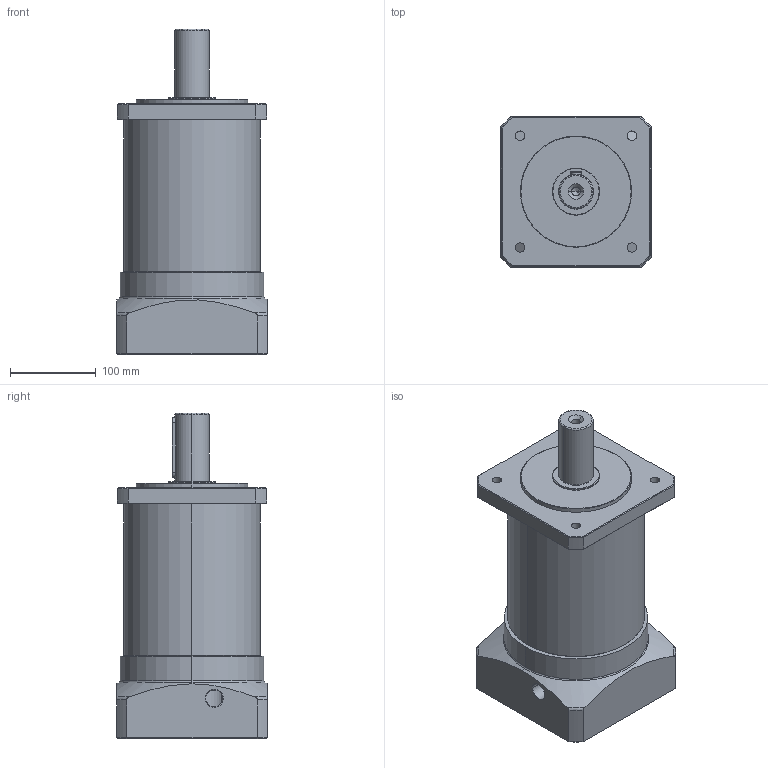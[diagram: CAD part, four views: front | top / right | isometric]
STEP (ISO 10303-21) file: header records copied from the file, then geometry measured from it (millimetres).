
FILE_DESCRIPTION (( 'STEP AP214' ), '1' );
FILE_NAME ('PF160-L3-35×80-114.3-200M12 三维零件图.STEP', '2021-08-06T06:17:05', ( 'XJJ' ), ( '' ), 'SwSTEP 2.0', 'SolidWorks 2016', '' );
FILE_SCHEMA (( 'AUTOMOTIVE_DESIGN' ));
Length unit declared in the file: millimetre
Products named in the file (3): hexagon socket head cap screws gb_GB_FASTENER_SCREWS_HSHCS M10X16-N; PF160-L3-35×80-114.3-200M12 三维外形图; PF160-L3-35×80-114.3-200M12 三维零件图
Assembly tree (2 placements, depth 2):
  PF160-L3-35×80-114.3-200M12 三维零件图
    PF160-L3-35×80-114.3-200M12 三维外形图
    hexagon socket head cap screws gb_GB_FASTENER_SCREWS_HSHCS M10X16-N
Bounding box: 176 x 176 x 380.5 mm (x, y, z)
Volume: 6464342.3 mm3; surface area: 297588 mm2
Topology: 2 solids, 2 shells, 193 faces, 450 edges, 266 vertices
Faces by surface type: cylinder 66, plane 54, cone 46, torus 27
Entity records: 6317 total; most frequent: CARTESIAN_POINT 1611, DIRECTION 992, ORIENTED_EDGE 876, EDGE_CURVE 438, AXIS2_PLACEMENT_3D 412, VERTEX_POINT 266, EDGE_LOOP 226, CIRCLE 214
